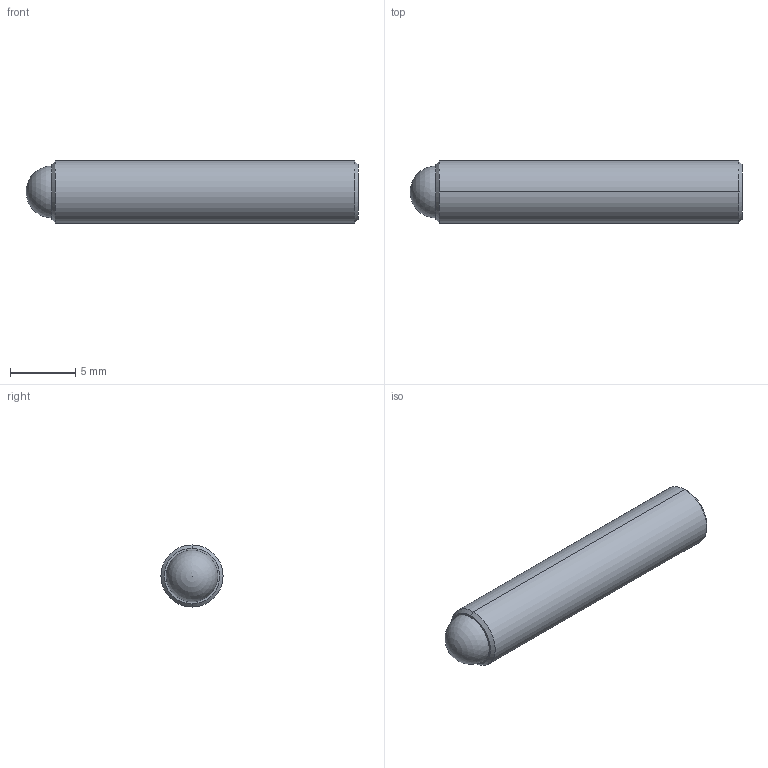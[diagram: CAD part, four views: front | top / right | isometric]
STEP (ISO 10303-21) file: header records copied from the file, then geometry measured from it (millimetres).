
FILE_DESCRIPTION (( 'STEP AP214' ), '1' );
FILE_NAME ('TS187-100-1000-AA.STEP', '2013-02-11T17:09:32', ( 'workpc' ), ( 'Microsoft' ), 'SwSTEP 2.0', 'SolidWorks 2013', '' );
FILE_SCHEMA (( 'AUTOMOTIVE_DESIGN' ));
Length unit declared in the file: inch
Products named in the file (1): TS187-100-1000-AA
Bounding box: 25.4 x 4.75 x 4.75 mm (x, y, z)
Volume: 411 mm3; surface area: 473.3 mm2
Topology: 2 solids, 2 shells, 20 faces, 45 edges, 29 vertices
Faces by surface type: plane 10, cylinder 4, cone 4, sphere 2
Entity records: 599 total; most frequent: DIRECTION 96, CARTESIAN_POINT 87, ORIENTED_EDGE 80, EDGE_CURVE 40, AXIS2_PLACEMENT_3D 35, VERTEX_POINT 26, LINE 26, VECTOR 26
